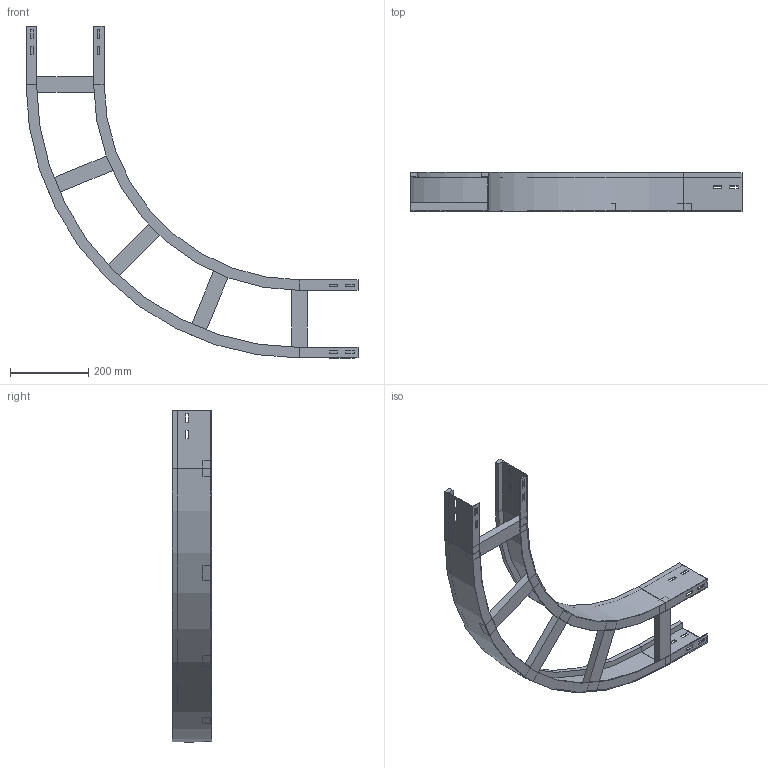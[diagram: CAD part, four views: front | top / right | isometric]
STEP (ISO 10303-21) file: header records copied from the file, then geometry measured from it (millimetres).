
FILE_DESCRIPTION (( 'STEP AP214' ), '1' );
FILE_NAME ('10B5D200.step', '2025-02-21T15:22:13', ( '' ), ( '' ), 'SwSTEP 2.0', 'SolidWorks 2023', '' );
FILE_SCHEMA (( 'AUTOMOTIVE_DESIGN' ));
Length unit declared in the file: millimetre
Products named in the file (4): A2_LONGH.ESTERNO 90°_H100_R500+200; A2_LONGH.INTERNO 90°_H100_R500; TRAVERSINO_200; 10B5D200
Assembly tree (7 placements, depth 2):
  10B5D200
    A2_LONGH.INTERNO 90°_H100_R500
    A2_LONGH.ESTERNO 90°_H100_R500+200
    TRAVERSINO_200  x5
Bounding box: 850 x 100 x 850 mm (x, y, z)
Volume: 1887222.4 mm3; surface area: 836073.3 mm2
Topology: 7 solids, 7 shells, 146 faces, 364 edges, 232 vertices
Faces by surface type: plane 138, cylinder 8
Entity records: 3837 total; most frequent: CARTESIAN_POINT 648, ORIENTED_EDGE 632, DIRECTION 596, EDGE_CURVE 316, LINE 300, VECTOR 300, VERTEX_POINT 200, EDGE_LOOP 154
